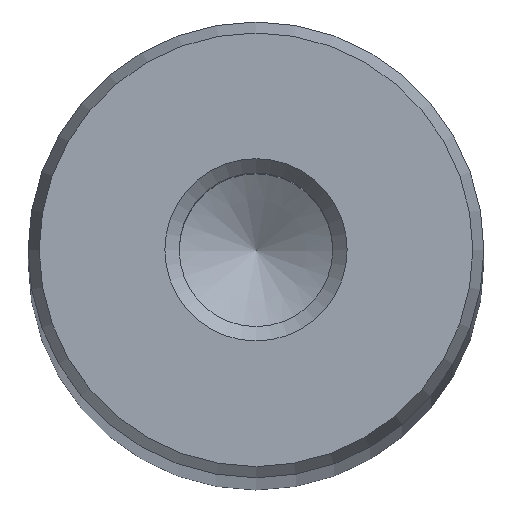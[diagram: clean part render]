
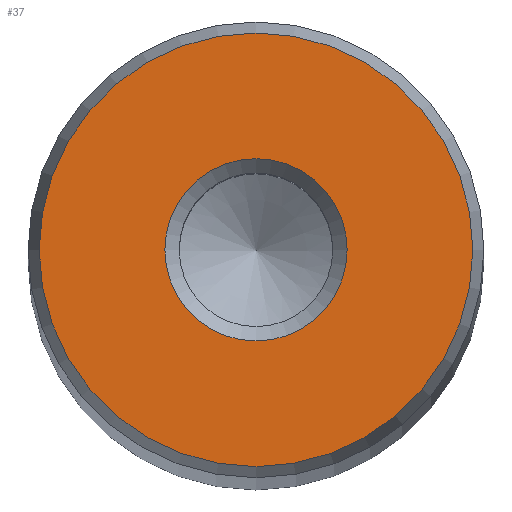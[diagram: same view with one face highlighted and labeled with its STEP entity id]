
A CAD part, top view. The second image highlights one B-rep face of the part: STEP entity #37.
In plain terms, the highlighted planar face has unit normal (0, 0, 1).
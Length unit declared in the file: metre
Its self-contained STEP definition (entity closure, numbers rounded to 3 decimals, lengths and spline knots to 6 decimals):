
#37 = ADVANCED_FACE( '', ( #80, #81 ), #82, .T. );
#80 = FACE_OUTER_BOUND( '', #139, .T. );
#81 = FACE_BOUND( '', #140, .T. );
#82 = PLANE( '', #141 );
#139 = EDGE_LOOP( '', ( #192 ) );
#140 = EDGE_LOOP( '', ( #193 ) );
#141 = AXIS2_PLACEMENT_3D( '', #194, #195, #196 );
#192 = ORIENTED_EDGE( '', *, *, #270, .T. );
#193 = ORIENTED_EDGE( '', *, *, #271, .T. );
#194 = CARTESIAN_POINT( '', ( 0., 0., 0.465 ) );
#195 = DIRECTION( '', ( 0., 0., 1. ) );
#196 = DIRECTION( '', ( 1., 0., 0. ) );
#270 = EDGE_CURVE( '', #297, #297, #298, .T. );
#271 = EDGE_CURVE( '', #299, #299, #300, .T. );
#297 = VERTEX_POINT( '', #334 );
#298 = CIRCLE( '', #335, 0.014272 );
#299 = VERTEX_POINT( '', #336 );
#300 = CIRCLE( '', #337, 0.006 );
#334 = CARTESIAN_POINT( '', ( 0.014272, 0., 0.465 ) );
#335 = AXIS2_PLACEMENT_3D( '', #370, #371, #372 );
#336 = CARTESIAN_POINT( '', ( 0.006, 0., 0.465 ) );
#337 = AXIS2_PLACEMENT_3D( '', #373, #374, #375 );
#370 = CARTESIAN_POINT( '', ( 0., 0., 0.465 ) );
#371 = DIRECTION( '', ( 0., 0., 1. ) );
#372 = DIRECTION( '', ( 1., 0., 0. ) );
#373 = CARTESIAN_POINT( '', ( 0., 0., 0.465 ) );
#374 = DIRECTION( '', ( 0., 0., -1. ) );
#375 = DIRECTION( '', ( 1., 0., 0. ) );
